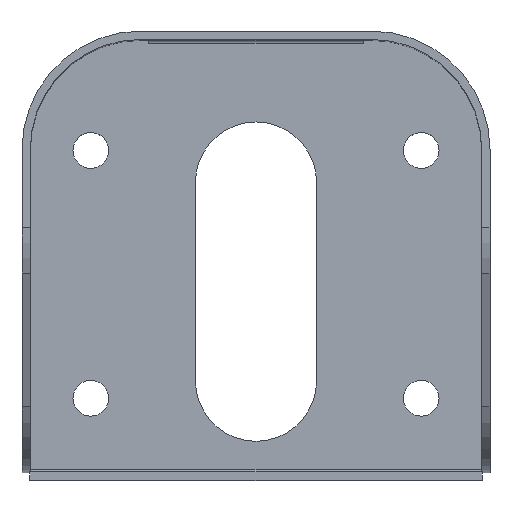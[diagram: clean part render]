
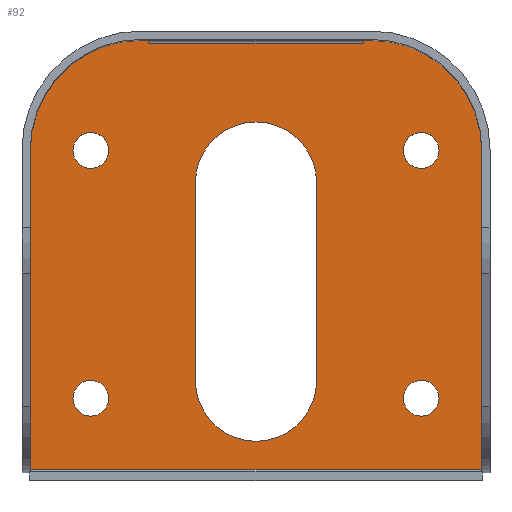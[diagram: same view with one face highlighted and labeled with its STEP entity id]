
A CAD part, top view. The second image highlights one B-rep face of the part: STEP entity #92.
In plain terms, the highlighted planar face has unit normal (0, 0, 1).
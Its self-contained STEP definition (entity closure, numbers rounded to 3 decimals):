
#92 = ADVANCED_FACE( '', ( #171, #172, #173, #174, #175, #176 ), #177, .T. );
#171 = FACE_OUTER_BOUND( '', #293, .T. );
#172 = FACE_BOUND( '', #294, .T. );
#173 = FACE_BOUND( '', #295, .T. );
#174 = FACE_BOUND( '', #296, .T. );
#175 = FACE_BOUND( '', #297, .T. );
#176 = FACE_BOUND( '', #298, .T. );
#177 = PLANE( '', #299 );
#293 = EDGE_LOOP( '', ( #518, #519, #520, #521, #522, #523, #524, #525, #526, #527 ) );
#294 = EDGE_LOOP( '', ( #528 ) );
#295 = EDGE_LOOP( '', ( #529 ) );
#296 = EDGE_LOOP( '', ( #530, #531, #532, #533 ) );
#297 = EDGE_LOOP( '', ( #534 ) );
#298 = EDGE_LOOP( '', ( #535 ) );
#299 = AXIS2_PLACEMENT_3D( '', #536, #537, #538 );
#518 = ORIENTED_EDGE( '', *, *, #911, .F. );
#519 = ORIENTED_EDGE( '', *, *, #912, .T. );
#520 = ORIENTED_EDGE( '', *, *, #913, .T. );
#521 = ORIENTED_EDGE( '', *, *, #887, .T. );
#522 = ORIENTED_EDGE( '', *, *, #914, .T. );
#523 = ORIENTED_EDGE( '', *, *, #857, .T. );
#524 = ORIENTED_EDGE( '', *, *, #869, .T. );
#525 = ORIENTED_EDGE( '', *, *, #878, .T. );
#526 = ORIENTED_EDGE( '', *, *, #881, .T. );
#527 = ORIENTED_EDGE( '', *, *, #884, .T. );
#528 = ORIENTED_EDGE( '', *, *, #907, .F. );
#529 = ORIENTED_EDGE( '', *, *, #905, .F. );
#530 = ORIENTED_EDGE( '', *, *, #904, .F. );
#531 = ORIENTED_EDGE( '', *, *, #901, .F. );
#532 = ORIENTED_EDGE( '', *, *, #898, .F. );
#533 = ORIENTED_EDGE( '', *, *, #895, .F. );
#534 = ORIENTED_EDGE( '', *, *, #891, .F. );
#535 = ORIENTED_EDGE( '', *, *, #889, .F. );
#536 = CARTESIAN_POINT( '', ( -21.05, 60.9, 1.5 ) );
#537 = DIRECTION( '', ( 0., 0., 1. ) );
#538 = DIRECTION( '', ( 1., 0., 0. ) );
#857 = EDGE_CURVE( '', #1028, #1026, #1029, .T. );
#869 = EDGE_CURVE( '', #1026, #1048, #1050, .T. );
#878 = EDGE_CURVE( '', #1048, #1065, #1067, .T. );
#881 = EDGE_CURVE( '', #1065, #1070, #1072, .T. );
#884 = EDGE_CURVE( '', #1070, #1076, #1078, .T. );
#887 = EDGE_CURVE( '', #1083, #1081, #1084, .T. );
#889 = EDGE_CURVE( '', #1086, #1086, #1087, .T. );
#891 = EDGE_CURVE( '', #1090, #1090, #1091, .T. );
#895 = EDGE_CURVE( '', #1097, #1099, #1100, .T. );
#898 = EDGE_CURVE( '', #1099, #1104, #1105, .T. );
#901 = EDGE_CURVE( '', #1104, #1109, #1110, .T. );
#904 = EDGE_CURVE( '', #1109, #1097, #1113, .T. );
#905 = EDGE_CURVE( '', #1114, #1114, #1115, .T. );
#907 = EDGE_CURVE( '', #1118, #1118, #1119, .T. );
#911 = EDGE_CURVE( '', #1124, #1076, #1125, .T. );
#912 = EDGE_CURVE( '', #1124, #1126, #1127, .T. );
#913 = EDGE_CURVE( '', #1126, #1083, #1128, .T. );
#914 = EDGE_CURVE( '', #1081, #1028, #1129, .T. );
#1026 = VERTEX_POINT( '', #1300 );
#1028 = VERTEX_POINT( '', #1302 );
#1029 = LINE( '', #1303, #1304 );
#1048 = VERTEX_POINT( '', #1331 );
#1050 = LINE( '', #1333, #1334 );
#1065 = VERTEX_POINT( '', #1355 );
#1067 = LINE( '', #1358, #1359 );
#1070 = VERTEX_POINT( '', #1362 );
#1072 = CIRCLE( '', #1365, 20. );
#1076 = VERTEX_POINT( '', #1370 );
#1078 = LINE( '', #1373, #1374 );
#1081 = VERTEX_POINT( '', #1378 );
#1083 = VERTEX_POINT( '', #1381 );
#1084 = LINE( '', #1382, #1383 );
#1086 = VERTEX_POINT( '', #1386 );
#1087 = CIRCLE( '', #1387, 3.25 );
#1090 = VERTEX_POINT( '', #1390 );
#1091 = CIRCLE( '', #1391, 3.25 );
#1097 = VERTEX_POINT( '', #1397 );
#1099 = VERTEX_POINT( '', #1400 );
#1100 = CIRCLE( '', #1401, 11. );
#1104 = VERTEX_POINT( '', #1407 );
#1105 = LINE( '', #1408, #1409 );
#1109 = VERTEX_POINT( '', #1414 );
#1110 = CIRCLE( '', #1415, 11. );
#1113 = LINE( '', #1420, #1421 );
#1114 = VERTEX_POINT( '', #1422 );
#1115 = CIRCLE( '', #1423, 3.25 );
#1118 = VERTEX_POINT( '', #1426 );
#1119 = CIRCLE( '', #1427, 3.25 );
#1124 = VERTEX_POINT( '', #1433 );
#1125 = LINE( '', #1434, #1435 );
#1126 = VERTEX_POINT( '', #1436 );
#1127 = LINE( '', #1437, #1438 );
#1128 = LINE( '', #1439, #1440 );
#1129 = CIRCLE( '', #1441, 20. );
#1300 = CARTESIAN_POINT( '', ( -41.05, 2., 1.5 ) );
#1302 = CARTESIAN_POINT( '', ( -41.05, 60.9, 1.5 ) );
#1303 = CARTESIAN_POINT( '', ( -41.05, 60.9, 1.5 ) );
#1304 = VECTOR( '', #1653, 1000. );
#1331 = CARTESIAN_POINT( '', ( 41.05, 2., 1.5 ) );
#1333 = CARTESIAN_POINT( '', ( -41.05, 2., 1.5 ) );
#1334 = VECTOR( '', #1671, 1000. );
#1355 = CARTESIAN_POINT( '', ( 41.05, 60.9, 1.5 ) );
#1358 = CARTESIAN_POINT( '', ( 41.05, 2., 1.5 ) );
#1359 = VECTOR( '', #1682, 1000. );
#1362 = CARTESIAN_POINT( '', ( 25.03, 80.5, 1.5 ) );
#1365 = AXIS2_PLACEMENT_3D( '', #1687, #1688, #1689 );
#1370 = CARTESIAN_POINT( '', ( 19.5, 80.5, 1.5 ) );
#1373 = CARTESIAN_POINT( '', ( 25.03, 80.5, 1.5 ) );
#1374 = VECTOR( '', #1692, 1000. );
#1378 = CARTESIAN_POINT( '', ( -25.03, 80.5, 1.5 ) );
#1381 = CARTESIAN_POINT( '', ( -19.5, 80.5, 1.5 ) );
#1382 = CARTESIAN_POINT( '', ( 25.03, 80.5, 1.5 ) );
#1383 = VECTOR( '', #1695, 1000. );
#1386 = CARTESIAN_POINT( '', ( 33.25, 60., 1.5 ) );
#1387 = AXIS2_PLACEMENT_3D( '', #1697, #1698, #1699 );
#1390 = CARTESIAN_POINT( '', ( 33.25, 15., 1.5 ) );
#1391 = AXIS2_PLACEMENT_3D( '', #1703, #1704, #1705 );
#1397 = CARTESIAN_POINT( '', ( -11., 18.187, 1.5 ) );
#1400 = CARTESIAN_POINT( '', ( 11., 18.187, 1.5 ) );
#1401 = AXIS2_PLACEMENT_3D( '', #1713, #1714, #1715 );
#1407 = CARTESIAN_POINT( '', ( 11., 54.187, 1.5 ) );
#1408 = CARTESIAN_POINT( '', ( 11., 18.187, 1.5 ) );
#1409 = VECTOR( '', #1718, 1000. );
#1414 = CARTESIAN_POINT( '', ( -11., 54.187, 1.5 ) );
#1415 = AXIS2_PLACEMENT_3D( '', #1723, #1724, #1725 );
#1420 = CARTESIAN_POINT( '', ( -11., 54.187, 1.5 ) );
#1421 = VECTOR( '', #1728, 1000. );
#1422 = CARTESIAN_POINT( '', ( -26.75, 60., 1.5 ) );
#1423 = AXIS2_PLACEMENT_3D( '', #1729, #1730, #1731 );
#1426 = CARTESIAN_POINT( '', ( -26.75, 15., 1.5 ) );
#1427 = AXIS2_PLACEMENT_3D( '', #1735, #1736, #1737 );
#1433 = CARTESIAN_POINT( '', ( 19.5, 79.5, 1.5 ) );
#1434 = CARTESIAN_POINT( '', ( 19.5, 60.9, 1.5 ) );
#1435 = VECTOR( '', #1745, 1000. );
#1436 = CARTESIAN_POINT( '', ( -19.5, 79.5, 1.5 ) );
#1437 = CARTESIAN_POINT( '', ( 19.5, 79.5, 1.5 ) );
#1438 = VECTOR( '', #1746, 1000. );
#1439 = CARTESIAN_POINT( '', ( -19.5, 60.9, 1.5 ) );
#1440 = VECTOR( '', #1747, 1000. );
#1441 = AXIS2_PLACEMENT_3D( '', #1748, #1749, #1750 );
#1653 = DIRECTION( '', ( 0., -1., 0. ) );
#1671 = DIRECTION( '', ( 1., 0., 0. ) );
#1682 = DIRECTION( '', ( 0., 1., 0. ) );
#1687 = CARTESIAN_POINT( '', ( 21.05, 60.9, 1.5 ) );
#1688 = DIRECTION( '', ( 0., 0., 1. ) );
#1689 = DIRECTION( '', ( 1., 0., 0. ) );
#1692 = DIRECTION( '', ( -1., 0., 0. ) );
#1695 = DIRECTION( '', ( -1., 0., 0. ) );
#1697 = CARTESIAN_POINT( '', ( 30., 60., 1.5 ) );
#1698 = DIRECTION( '', ( 0., 0., 1. ) );
#1699 = DIRECTION( '', ( 1., 0., 0. ) );
#1703 = CARTESIAN_POINT( '', ( 30., 15., 1.5 ) );
#1704 = DIRECTION( '', ( 0., 0., 1. ) );
#1705 = DIRECTION( '', ( 1., 0., 0. ) );
#1713 = CARTESIAN_POINT( '', ( 0., 18.187, 1.5 ) );
#1714 = DIRECTION( '', ( 0., 0., 1. ) );
#1715 = DIRECTION( '', ( 1., 0., 0. ) );
#1718 = DIRECTION( '', ( 0., 1., 0. ) );
#1723 = CARTESIAN_POINT( '', ( 0., 54.187, 1.5 ) );
#1724 = DIRECTION( '', ( 0., 0., 1. ) );
#1725 = DIRECTION( '', ( 1., 0., 0. ) );
#1728 = DIRECTION( '', ( 0., -1., 0. ) );
#1729 = CARTESIAN_POINT( '', ( -30., 60., 1.5 ) );
#1730 = DIRECTION( '', ( 0., 0., 1. ) );
#1731 = DIRECTION( '', ( 1., 0., 0. ) );
#1735 = CARTESIAN_POINT( '', ( -30., 15., 1.5 ) );
#1736 = DIRECTION( '', ( 0., 0., 1. ) );
#1737 = DIRECTION( '', ( 1., 0., 0. ) );
#1745 = DIRECTION( '', ( 0., 1., 0. ) );
#1746 = DIRECTION( '', ( -1., 0., 0. ) );
#1747 = DIRECTION( '', ( 0., 1., 0. ) );
#1748 = CARTESIAN_POINT( '', ( -21.05, 60.9, 1.5 ) );
#1749 = DIRECTION( '', ( 0., 0., 1. ) );
#1750 = DIRECTION( '', ( 1., 0., 0. ) );
